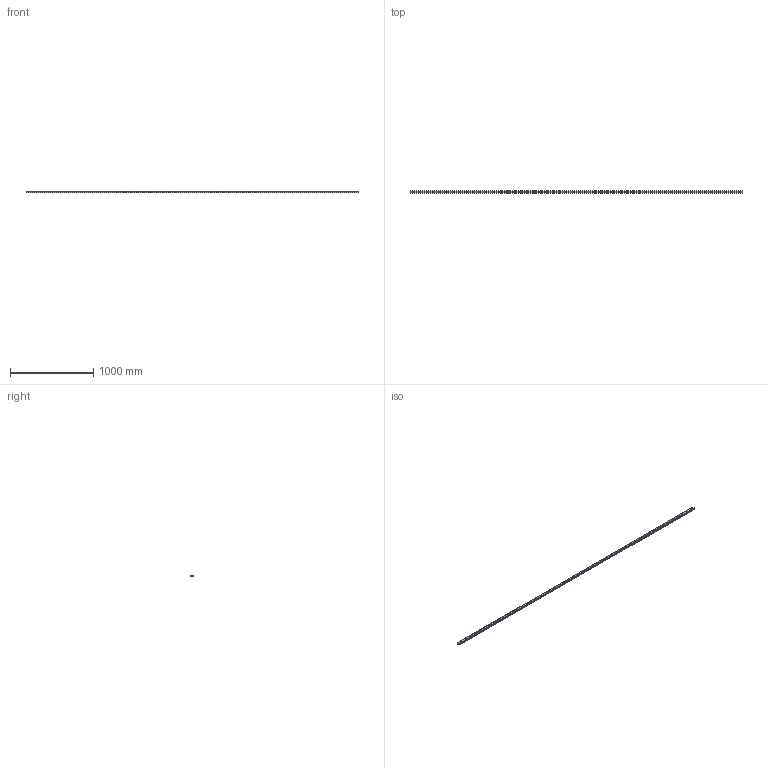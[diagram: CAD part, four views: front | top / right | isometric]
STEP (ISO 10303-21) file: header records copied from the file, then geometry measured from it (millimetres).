
FILE_DESCRIPTION(('FreeCAD Model'),'2;1');
FILE_NAME('Open CASCADE Shape Model','2025-09-11T12:02:15',('Author'),( ''),'Open CASCADE STEP processor 7.6','FreeCAD','Unknown');
FILE_SCHEMA(('AUTOMOTIVE_DESIGN { 1 0 10303 214 1 1 1 1 }'));
Length unit declared in the file: millimetre
Products named in the file (1): ER-30-R-4000-40-40
Bounding box: 4000 x 28 x 23 mm (x, y, z)
Volume: 2280266.9 mm3; surface area: 446389.3 mm2
Topology: 1 solids, 1 shells, 180 faces, 434 edges, 306 vertices
Faces by surface type: cylinder 104, plane 76
Full cylindrical faces by diameter (mm): 9 x50, 14 x50
Entity records: 5578 total; most frequent: CARTESIAN_POINT 1021, DIRECTION 954, ORIENTED_EDGE 868, AXIS2_PLACEMENT_3D 439, EDGE_CURVE 434, FACE_BOUND 330, EDGE_LOOP 330, VERTEX_POINT 306
